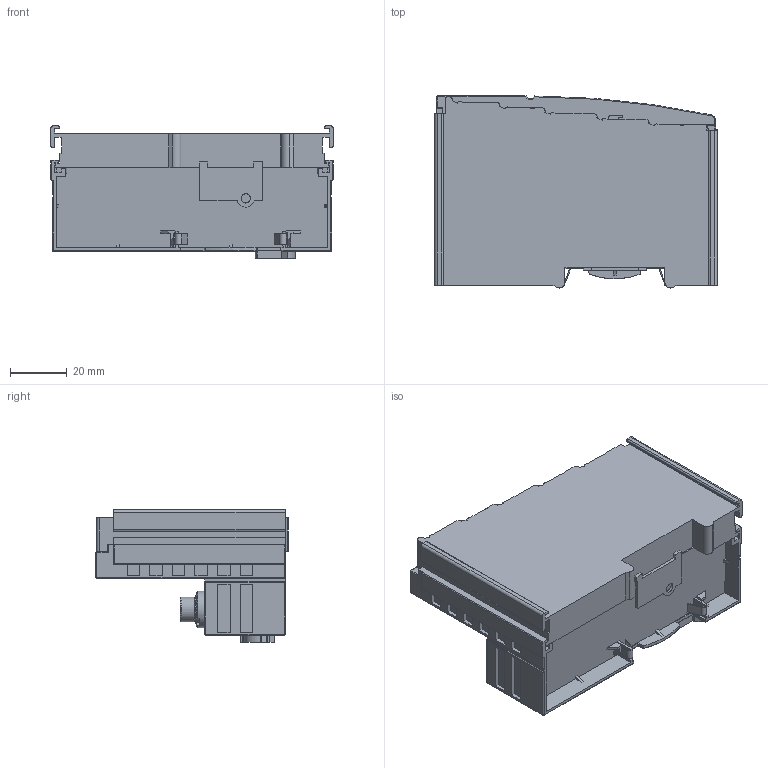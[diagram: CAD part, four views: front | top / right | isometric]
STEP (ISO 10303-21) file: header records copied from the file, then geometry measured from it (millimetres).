
FILE_DESCRIPTION(/* description */ (''),/* implementation_level */ '2;1');
FILE_NAME(/* name */ 'Z:\Entwicklung\IO-Projekte\EK\EK1110\02_Projekt-Dokumente\EK1110-0008_vereinfachte_Daten\EK1110_0008.stp',/* time_stamp */ '2017-06-09T14:19:39+02:00',/* author */ ('PaulSch'),/* organization */ (''),/* preprocessor_version */ 'ST-DEVELOPER v16.5',/* originating_system */ 'Autodesk Inventor 2017',/* authorisation */ '');
FILE_SCHEMA (('AUTOMOTIVE_DESIGN { 1 0 10303 214 3 1 1 }'));
Length unit declared in the file: millimetre
Products named in the file (1): 0000000703_EK1110_0008_Baugruppe_vereinfacht
Bounding box: 100 x 68 x 46.9 mm (x, y, z)
Volume: 168823.2 mm3; surface area: 32704.2 mm2
Topology: 1 solids, 3 shells, 691 faces, 1897 edges, 1225 vertices
Faces by surface type: plane 444, cylinder 176, bspline 25, cone 24, sphere 16, torus 6
Full cylindrical faces by diameter (mm): 1.1 x4, 2.55 x1, 3.3 x1, 5.6 x1, 7.1 x1, 8.2 x1, 8.7 x1, 10 x2, 10.1 x1, 13 x1
Entity records: 21660 total; most frequent: CARTESIAN_POINT 4270, ORIENTED_EDGE 3696, DIRECTION 3469, EDGE_CURVE 1848, LINE 1357, VECTOR 1357, VERTEX_POINT 1213, AXIS2_PLACEMENT_3D 1056
